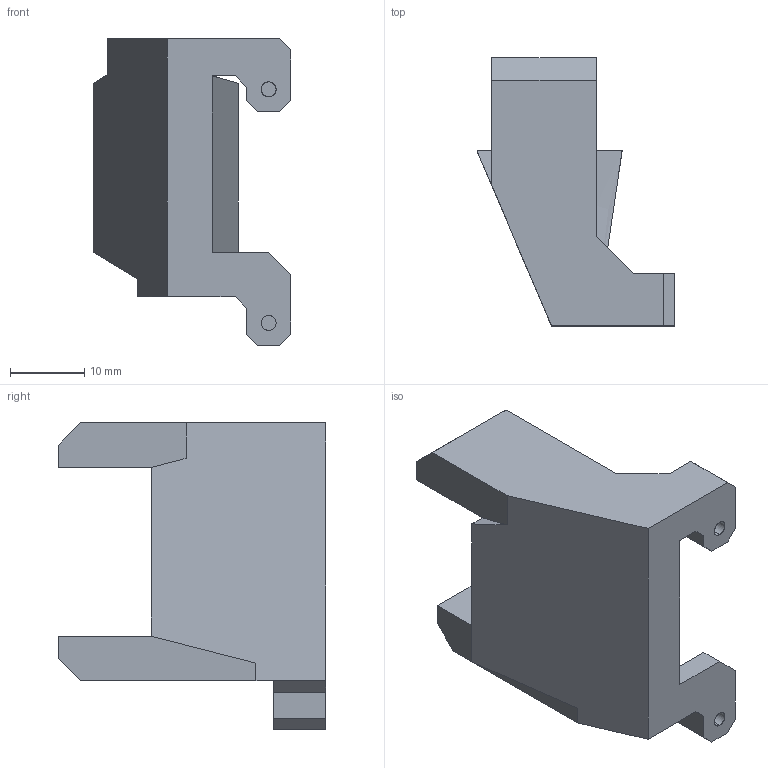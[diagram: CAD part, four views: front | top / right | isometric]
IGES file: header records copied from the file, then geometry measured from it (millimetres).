
Start section: SolidWorks IGES file using analytic representation for surfaces
Global section: file name: C:\Users\Jonathan\Dropbox\BR-Engineering\Models\CAMTILT-X4\PUBLIC-FILES-R2\SERVO-MOUNT-R2\CAMTILT-SERVO-MOUNT-R2.IGS; native system: SolidWorks 2014; preprocessor: SolidWorks 2014; author: Jonathan; date: 160907.125700; units: millimetre
Bounding box: 26.6 x 36 x 41.2 mm (x, y, z)
Surface area: 4835.6 mm2 (no closed solid volume)
Topology: 0 solids, 0 shells, 55 faces, 543 edges, 543 vertices
Faces by surface type: bspline 47, revolution 8
